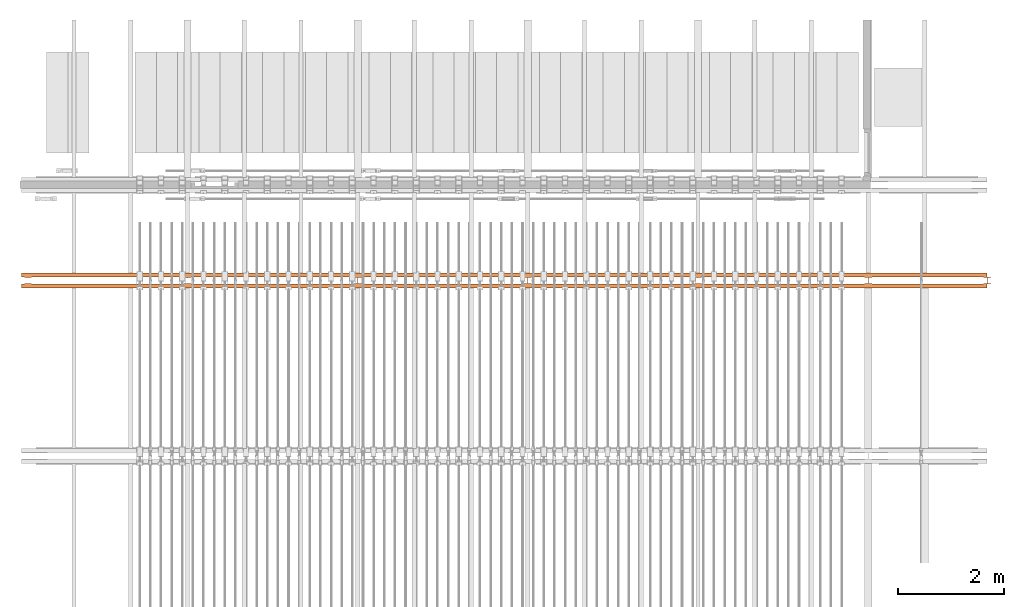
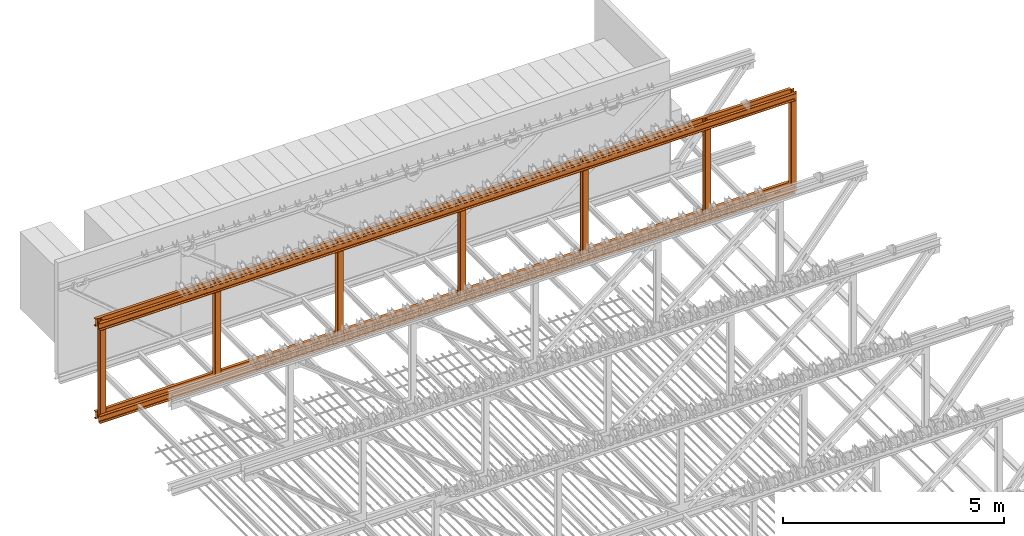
# One storey, part 7 of 8: 1 proxy.
"""IFC2X3 building model written with IfcOpenShell, lengths in millimetres."""

from ifc_helpers import new_model, entity, si_unit, converted_unit, direction, frame, frame_2d, origin, place, context, subcontext, project, spatial, polyline, circle_curve, parameter, trimmed, segment, composite_curve, outline, extrude, source, transform, mapped, material, type_object, type_shapes, element, save


model = new_model("IFC2X3")

# Units and contexts
model_context = context("Model", 3, precision=0.01, world=origin(), true_north=direction((6.123233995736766e-17, 1.0)))
body_context = subcontext(model_context, "Body", "Model", "MODEL_VIEW")
ifc_project = project(units=[si_unit("LENGTHUNIT", "METRE", prefix="MILLI"), si_unit("AREAUNIT", "SQUARE_METRE"), converted_unit("PLANEANGLEUNIT", "DEGREE", entity("IfcPlaneAngleMeasure", 0.017453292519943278), si_unit("PLANEANGLEUNIT", "RADIAN"), dimensions=[0, 0, 0, 0, 0, 0, 0])], contexts=[model_context])

# Site, building, storey
site_placement = place(None, origin())
site = spatial("IfcSite", under=ifc_project, at=site_placement, Name="Default", CompositionType="ELEMENT")
building_placement = place(site_placement, origin())
building = spatial("IfcBuilding", under=site, at=building_placement, CompositionType="ELEMENT")
storey_placement = place(building_placement, frame((0.0, 0.0, 30550.0)))
storey = spatial("IfcBuildingStorey", under=building, at=storey_placement, Name="Rollenzolder", CompositionType="ELEMENT", Elevation=30550.000000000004)

# Proxy
ifc_material = material(Name="Staal PBTA")
building_element_proxy_type = type_object("IfcBuildingElementProxyType", Name="ophanging:ophanging", PredefinedType="NOTDEFINED", material=ifc_material)
shared_shape = source(origin(), body_context, "Body", "SweptSolid", [
    extrude(outline(composite_curve([segment(polyline([(-70.0, -58.0), (-70.0, -66.50000000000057)]), True, "CONTINUOUS"), segment(polyline([(-70.0, -66.50000000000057), (70.0, -66.50000000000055)]), True, "CONTINUOUS"), segment(polyline([(70.0, -66.50000000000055), (70.0, -58.0)]), True, "CONTINUOUS"), segment(polyline([(70.0, -58.0), (14.749999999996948, -58.0)]), True, "CONTINUOUS"), segment(trimmed(circle_curve(frame_2d((14.749999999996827, -46.0), x_axis=(0.0, -1.0)), 12.0), [parameter(269.9999999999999)], [parameter(1.0177774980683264e-12)], True, "PARAMETER"), False, "CONTINUOUS"), segment(polyline([(2.749999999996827, -46.0), (2.749999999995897, 46.0)]), True, "CONTINUOUS"), segment(trimmed(circle_curve(frame_2d((14.749999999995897, 46.0), x_axis=(-1.0, 0.0)), 12.0), [parameter(269.9999999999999)], [parameter(359.9999999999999)], True, "PARAMETER"), False, "CONTINUOUS"), segment(polyline([(14.749999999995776, 58.0), (70.0, 58.0)]), True, "CONTINUOUS"), segment(polyline([(70.0, 58.0), (70.0, 66.4999999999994)]), True, "CONTINUOUS"), segment(polyline([(70.0, 66.4999999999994), (-70.0, 66.49999999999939)]), True, "CONTINUOUS"), segment(polyline([(-70.0, 66.49999999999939), (-70.0, 58.0)]), True, "CONTINUOUS"), segment(polyline([(-70.0, 58.0), (-14.750000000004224, 58.0)]), True, "CONTINUOUS"), segment(trimmed(circle_curve(frame_2d((-14.750000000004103, 46.0), x_axis=(0.0, 1.0)), 12.0), [parameter(269.9999999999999)], [parameter(359.99999999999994)], True, "PARAMETER"), False, "CONTINUOUS"), segment(polyline([(-2.750000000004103, 46.0), (-2.750000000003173, -46.0)]), True, "CONTINUOUS"), segment(trimmed(circle_curve(frame_2d((-14.750000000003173, -46.0), x_axis=(1.0, 0.0)), 12.0), [parameter(269.9999999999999)], [parameter(2.0355549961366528e-13)], True, "PARAMETER"), False, "CONTINUOUS"), segment(polyline([(-14.75000000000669, -58.0), (-70.0, -58.0)]), True, "CONTINUOUS")], self_intersect=False)), frame((18290.0, 0.0, -200.0), z_axis=(0.0, 0.0, -1.0), x_axis=(-1.0, 0.0, 0.0)), (0.0, 0.0, -1.0), 2760.0),
    extrude(outline(composite_curve([segment(polyline([(-70.0, -58.0), (-70.0, -66.50000000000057)]), True, "CONTINUOUS"), segment(polyline([(-70.0, -66.50000000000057), (70.0, -66.50000000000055)]), True, "CONTINUOUS"), segment(polyline([(70.0, -66.50000000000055), (70.0, -58.0)]), True, "CONTINUOUS"), segment(polyline([(70.0, -58.0), (14.749999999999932, -58.0)]), True, "CONTINUOUS"), segment(trimmed(circle_curve(frame_2d((14.749999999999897, -46.0), x_axis=(1.0, 0.0)), 12.0), [parameter(180.00000000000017)], [parameter(270.0000000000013)], True, "PARAMETER"), False, "CONTINUOUS"), segment(polyline([(2.7499999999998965, -46.0), (2.749999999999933, 46.0)]), True, "CONTINUOUS"), segment(trimmed(circle_curve(frame_2d((14.749999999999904, 46.0), x_axis=(1.0, 0.0)), 12.0), [parameter(89.99999999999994)], [parameter(179.9999999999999)], True, "PARAMETER"), False, "CONTINUOUS"), segment(polyline([(14.749999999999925, 58.0), (70.0, 58.0)]), True, "CONTINUOUS"), segment(polyline([(70.0, 58.0), (70.0, 66.4999999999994)]), True, "CONTINUOUS"), segment(polyline([(70.0, 66.4999999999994), (-70.0, 66.49999999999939)]), True, "CONTINUOUS"), segment(polyline([(-70.0, 66.49999999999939), (-70.0, 58.0)]), True, "CONTINUOUS"), segment(polyline([(-70.0, 58.0), (-14.750000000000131, 58.0)]), True, "CONTINUOUS"), segment(trimmed(circle_curve(frame_2d((-14.750000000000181, 46.0), x_axis=(1.0, 0.0)), 12.0), [parameter(359.99999999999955)], [parameter(89.99999999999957)], True, "PARAMETER"), False, "CONTINUOUS"), segment(polyline([(-2.7500000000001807, 46.0), (-2.7500000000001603, -46.0)]), True, "CONTINUOUS"), segment(trimmed(circle_curve(frame_2d((-14.750000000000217, -46.0), x_axis=(1.0, 0.0)), 12.0), [parameter(269.99999999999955)], [parameter(359.99999999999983)], True, "PARAMETER"), False, "CONTINUOUS"), segment(polyline([(-14.750000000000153, -58.0), (-70.0, -58.0)]), True, "CONTINUOUS")], self_intersect=False)), frame((250.0, 0.0, -200.0), z_axis=(0.0, 0.0, -1.0), x_axis=(-1.0, 0.0, 0.0)), (0.0, 0.0, -1.0), 2760.0000000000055),
    extrude(outline(composite_curve([segment(polyline([(-100.0, -41.17690021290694), (100.0, -41.17690021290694)]), True, "CONTINUOUS"), segment(polyline([(100.0, -41.17690021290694), (100.0, 33.82309978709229)]), True, "CONTINUOUS"), segment(polyline([(100.0, 33.82309978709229), (97.03916937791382, 33.82309978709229)]), True, "CONTINUOUS"), segment(trimmed(circle_curve(frame_2d((97.03916937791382, 27.82309978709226), x_axis=(0.0, 1.0)), 6.0), [parameter(3.053332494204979e-13)], [parameter(85.42607874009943)], True, "PARAMETER"), True, "CONTINUOUS"), segment(polyline([(91.05827770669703, 28.30157112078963), (87.02663439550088, -22.093970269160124)]), True, "CONTINUOUS"), segment(trimmed(circle_curve(frame_2d((75.5632586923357, -21.176900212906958), x_axis=(0.0, 1.0)), 11.5), [parameter(180.0000000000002)], [parameter(265.4260787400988)], True, "PARAMETER"), False, "CONTINUOUS"), segment(polyline([(75.5632586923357, -32.67690021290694), (-75.56325869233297, -32.67690021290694)]), True, "CONTINUOUS"), segment(trimmed(circle_curve(frame_2d((-75.56325869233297, -21.176900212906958), x_axis=(0.0, 1.0)), 11.5), [parameter(94.57392125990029)], [parameter(179.99999999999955)], True, "PARAMETER"), False, "CONTINUOUS"), segment(polyline([(-87.0266343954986, -22.093970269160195), (-91.0582777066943, 28.30157112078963)]), True, "CONTINUOUS"), segment(trimmed(circle_curve(frame_2d((-97.03916937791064, 27.82309978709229), x_axis=(0.0, 1.0)), 6.0), [parameter(274.5739212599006)], [parameter(0.0)], True, "PARAMETER"), True, "CONTINUOUS"), segment(polyline([(-97.03916937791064, 33.82309978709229), (-100.0, 33.82309978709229)]), True, "CONTINUOUS"), segment(polyline([(-100.0, 33.82309978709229), (-100.0, -41.17690021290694)]), True, "CONTINUOUS")], self_intersect=False)), frame((125.0, 107.67690021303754, 2460.0), z_axis=(1.0, 0.0, 0.0), x_axis=(0.0, 0.0, -1.0)), (0.0, 0.0, 1.0), 18165.0),
    extrude(outline(composite_curve([segment(polyline([(-100.0, -41.17690021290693), (100.0, -41.17690021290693)]), True, "CONTINUOUS"), segment(polyline([(100.0, -41.17690021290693), (100.0, 33.82309978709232)]), True, "CONTINUOUS"), segment(polyline([(100.0, 33.82309978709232), (97.03916937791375, 33.82309978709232)]), True, "CONTINUOUS"), segment(trimmed(circle_curve(frame_2d((97.03916937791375, 27.82309978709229), x_axis=(0.0, 1.0)), 6.0), [parameter(3.053332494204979e-13)], [parameter(85.42607874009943)], True, "PARAMETER"), True, "CONTINUOUS"), segment(polyline([(91.05827770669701, 28.30157112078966), (87.02663439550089, -22.09397026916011)]), True, "CONTINUOUS"), segment(trimmed(circle_curve(frame_2d((75.56325869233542, -21.17690021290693), x_axis=(0.0, 1.0)), 11.5), [parameter(180.0000000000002)], [parameter(265.4260787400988)], True, "PARAMETER"), False, "CONTINUOUS"), segment(polyline([(75.56325869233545, -32.67690021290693), (-75.5632586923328, -32.67690021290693)]), True, "CONTINUOUS"), segment(trimmed(circle_curve(frame_2d((-75.56325869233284, -21.17690021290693), x_axis=(0.0, 1.0)), 11.5), [parameter(94.57392125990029)], [parameter(179.99999999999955)], True, "PARAMETER"), False, "CONTINUOUS"), segment(polyline([(-87.02663439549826, -22.09397026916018), (-91.0582777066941, 28.30157112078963)]), True, "CONTINUOUS"), segment(trimmed(circle_curve(frame_2d((-97.03916937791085, 27.823099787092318), x_axis=(0.0, 1.0)), 6.0), [parameter(274.5739212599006)], [parameter(0.0)], True, "PARAMETER"), True, "CONTINUOUS"), segment(polyline([(-97.03916937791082, 33.82309978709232), (-100.0, 33.82309978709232)]), True, "CONTINUOUS"), segment(polyline([(-100.0, 33.82309978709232), (-100.0, -41.17690021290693)]), True, "CONTINUOUS")], self_intersect=False)), frame((125.0, 107.67690021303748, -100.0), z_axis=(1.0, 0.0, 0.0), x_axis=(0.0, 0.0, -1.0)), (0.0, 0.0, 1.0), 18165.0),
    extrude(outline(composite_curve([segment(polyline([(-41.17690021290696, -100.0), (33.82309978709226, -100.0)]), True, "CONTINUOUS"), segment(polyline([(33.82309978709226, -100.0), (33.82309978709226, -97.0391693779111)]), True, "CONTINUOUS"), segment(trimmed(circle_curve(frame_2d((27.82309978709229, -97.0391693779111), x_axis=(0.0, 1.0)), 6.0), [parameter(269.9999999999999)], [parameter(355.42607874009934)], True, "PARAMETER"), True, "CONTINUOUS"), segment(polyline([(28.301571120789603, -91.05827770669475), (-22.09397026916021, -87.02663439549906)]), True, "CONTINUOUS"), segment(trimmed(circle_curve(frame_2d((-21.176900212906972, -75.56325869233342), x_axis=(-0.9968152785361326, 0.07974522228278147)), 11.5), [parameter(4.573921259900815)], [parameter(90.00000000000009)], True, "PARAMETER"), False, "CONTINUOUS"), segment(polyline([(-32.67690021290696, -75.56325869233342), (-32.67690021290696, 75.56325869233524)]), True, "CONTINUOUS"), segment(trimmed(circle_curve(frame_2d((-21.176900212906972, 75.56325869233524), x_axis=(0.0, 1.0)), 11.5), [parameter(4.573921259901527)], [parameter(90.00000000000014)], True, "PARAMETER"), False, "CONTINUOUS"), segment(polyline([(-22.09397026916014, 87.02663439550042), (28.30157112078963, 91.05827770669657)]), True, "CONTINUOUS"), segment(trimmed(circle_curve(frame_2d((27.82309978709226, 97.03916937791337), x_axis=(0.9968152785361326, 0.07974522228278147)), 6.0), [parameter(269.9999999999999)], [parameter(355.42607874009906)], True, "PARAMETER"), True, "CONTINUOUS"), segment(polyline([(33.82309978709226, 97.03916937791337), (33.82309978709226, 100.0)]), True, "CONTINUOUS"), segment(polyline([(33.82309978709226, 100.0), (-41.17690021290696, 100.0)]), True, "CONTINUOUS"), segment(polyline([(-41.17690021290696, 100.0), (-41.17690021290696, -100.0)]), True, "CONTINUOUS")], self_intersect=False)), frame((125.0, -107.6769002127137, 2460.0), z_axis=(1.0, 0.0, 0.0), x_axis=(0.0, -1.0, 0.0)), (0.0, 0.0, 1.0), 18165.000000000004),
    extrude(outline(composite_curve([segment(polyline([(-41.17690021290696, -100.0), (33.82309978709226, -100.0)]), True, "CONTINUOUS"), segment(polyline([(33.82309978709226, -100.0), (33.82309978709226, -97.03916937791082)]), True, "CONTINUOUS"), segment(trimmed(circle_curve(frame_2d((27.82309978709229, -97.03916937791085), x_axis=(0.0, 1.0)), 6.0), [parameter(269.9999999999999)], [parameter(355.42607874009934)], True, "PARAMETER"), True, "CONTINUOUS"), segment(polyline([(28.301571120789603, -91.0582777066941), (-22.09397026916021, -87.02663439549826)]), True, "CONTINUOUS"), segment(trimmed(circle_curve(frame_2d((-21.176900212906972, -75.56325869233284), x_axis=(-0.9968152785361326, 0.07974522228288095)), 11.5), [parameter(4.573921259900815)], [parameter(90.00000000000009)], True, "PARAMETER"), False, "CONTINUOUS"), segment(polyline([(-32.67690021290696, -75.5632586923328), (-32.67690021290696, 75.56325869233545)]), True, "CONTINUOUS"), segment(trimmed(circle_curve(frame_2d((-21.176900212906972, 75.56325869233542), x_axis=(0.0, 1.0)), 11.5), [parameter(4.573921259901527)], [parameter(90.00000000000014)], True, "PARAMETER"), False, "CONTINUOUS"), segment(polyline([(-22.09397026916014, 87.02663439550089), (28.30157112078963, 91.05827770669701)]), True, "CONTINUOUS"), segment(trimmed(circle_curve(frame_2d((27.82309978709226, 97.03916937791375), x_axis=(0.9968152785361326, 0.07974522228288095)), 6.0), [parameter(269.9999999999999)], [parameter(355.42607874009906)], True, "PARAMETER"), True, "CONTINUOUS"), segment(polyline([(33.82309978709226, 97.03916937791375), (33.82309978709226, 100.0)]), True, "CONTINUOUS"), segment(polyline([(33.82309978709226, 100.0), (-41.17690021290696, 100.0)]), True, "CONTINUOUS"), segment(polyline([(-41.17690021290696, 100.0), (-41.17690021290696, -100.0)]), True, "CONTINUOUS")], self_intersect=False)), frame((125.0, -107.6769002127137, -100.0), z_axis=(1.0, 0.0, 0.0), x_axis=(0.0, -1.0, 0.0)), (0.0, 0.0, 1.0), 18165.000000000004),
    extrude(outline(composite_curve([segment(polyline([(-70.0, -58.0), (-70.0, -66.50000000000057)]), True, "CONTINUOUS"), segment(polyline([(-70.0, -66.50000000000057), (70.0, -66.50000000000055)]), True, "CONTINUOUS"), segment(polyline([(70.0, -66.50000000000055), (70.0, -58.0)]), True, "CONTINUOUS"), segment(polyline([(70.0, -58.0), (14.750000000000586, -58.0)]), True, "CONTINUOUS"), segment(trimmed(circle_curve(frame_2d((14.750000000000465, -46.0), x_axis=(0.0, -1.0)), 12.0), [parameter(269.9999999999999)], [parameter(1.0177774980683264e-12)], True, "PARAMETER"), False, "CONTINUOUS"), segment(polyline([(2.749999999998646, -46.0), (2.749999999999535, 46.0)]), True, "CONTINUOUS"), segment(trimmed(circle_curve(frame_2d((14.749999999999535, 46.0), x_axis=(-1.0, 0.0)), 12.0), [parameter(269.9999999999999)], [parameter(359.9999999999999)], True, "PARAMETER"), False, "CONTINUOUS"), segment(polyline([(14.749999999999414, 58.0), (70.0, 58.0)]), True, "CONTINUOUS"), segment(polyline([(70.0, 58.0), (70.0, 66.4999999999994)]), True, "CONTINUOUS"), segment(polyline([(70.0, 66.4999999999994), (-70.0, 66.49999999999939)]), True, "CONTINUOUS"), segment(polyline([(-70.0, 66.49999999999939), (-70.0, 58.0)]), True, "CONTINUOUS"), segment(polyline([(-70.0, 58.0), (-14.750000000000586, 58.0)]), True, "CONTINUOUS"), segment(trimmed(circle_curve(frame_2d((-14.750000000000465, 46.0), x_axis=(0.0, 1.0)), 12.0), [parameter(269.9999999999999)], [parameter(359.99999999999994)], True, "PARAMETER"), False, "CONTINUOUS"), segment(polyline([(-2.750000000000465, 46.0), (-2.749999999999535, -46.0)]), True, "CONTINUOUS"), segment(trimmed(circle_curve(frame_2d((-14.749999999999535, -46.0), x_axis=(1.0, 0.0)), 12.0), [parameter(269.9999999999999)], [parameter(2.0355549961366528e-13)], True, "PARAMETER"), False, "CONTINUOUS"), segment(polyline([(-14.750000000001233, -58.0), (-70.0, -58.0)]), True, "CONTINUOUS")], self_intersect=False)), frame((16050.0, 0.0, -200.0), z_axis=(0.0, 0.0, -1.0), x_axis=(-1.0, 0.0, 0.0)), (0.0, 0.0, -1.0), 2760.0),
    extrude(outline(composite_curve([segment(polyline([(-70.0, -58.0), (-70.0, -66.50000000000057)]), True, "CONTINUOUS"), segment(polyline([(-70.0, -66.50000000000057), (70.0, -66.50000000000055)]), True, "CONTINUOUS"), segment(polyline([(70.0, -66.50000000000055), (70.0, -58.0)]), True, "CONTINUOUS"), segment(polyline([(70.0, -58.0), (14.750000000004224, -58.0)]), True, "CONTINUOUS"), segment(trimmed(circle_curve(frame_2d((14.750000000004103, -46.0), x_axis=(0.0, -1.0)), 12.0), [parameter(269.9999999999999)], [parameter(1.0177774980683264e-12)], True, "PARAMETER"), False, "CONTINUOUS"), segment(polyline([(2.750000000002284, -46.0), (2.750000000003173, 46.0)]), True, "CONTINUOUS"), segment(trimmed(circle_curve(frame_2d((14.750000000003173, 46.0), x_axis=(-1.0, 0.0)), 12.0), [parameter(269.9999999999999)], [parameter(359.9999999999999)], True, "PARAMETER"), False, "CONTINUOUS"), segment(polyline([(14.750000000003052, 58.0), (70.0, 58.0)]), True, "CONTINUOUS"), segment(polyline([(70.0, 58.0), (70.0, 66.4999999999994)]), True, "CONTINUOUS"), segment(polyline([(70.0, 66.4999999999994), (-70.0, 66.49999999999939)]), True, "CONTINUOUS"), segment(polyline([(-70.0, 66.49999999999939), (-70.0, 58.0)]), True, "CONTINUOUS"), segment(polyline([(-70.0, 58.0), (-14.749999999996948, 58.0)]), True, "CONTINUOUS"), segment(trimmed(circle_curve(frame_2d((-14.749999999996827, 46.0), x_axis=(0.0, 1.0)), 12.0), [parameter(269.9999999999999)], [parameter(359.99999999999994)], True, "PARAMETER"), False, "CONTINUOUS"), segment(polyline([(-2.749999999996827, 46.0), (-2.749999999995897, -46.0)]), True, "CONTINUOUS"), segment(trimmed(circle_curve(frame_2d((-14.749999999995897, -46.0), x_axis=(1.0, 0.0)), 12.0), [parameter(269.9999999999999)], [parameter(2.0355549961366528e-13)], True, "PARAMETER"), False, "CONTINUOUS"), segment(polyline([(-14.749999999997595, -58.0), (-70.0, -58.0)]), True, "CONTINUOUS")], self_intersect=False)), frame((12850.0, 0.0, -200.0), z_axis=(0.0, 0.0, -1.0), x_axis=(-1.0, 0.0, 0.0)), (0.0, 0.0, -1.0), 2760.0),
    extrude(outline(composite_curve([segment(polyline([(-70.0, -58.0), (-70.0, -66.50000000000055)]), True, "CONTINUOUS"), segment(polyline([(-70.0, -66.50000000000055), (70.0, -66.50000000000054)]), True, "CONTINUOUS"), segment(polyline([(70.0, -66.50000000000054), (70.0, -58.0)]), True, "CONTINUOUS"), segment(polyline([(70.0, -58.0), (14.749999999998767, -58.0)]), True, "CONTINUOUS"), segment(trimmed(circle_curve(frame_2d((14.750000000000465, -46.0), x_axis=(0.0, -1.0)), 12.0), [parameter(269.9999999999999)], [parameter(1.0177774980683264e-12)], True, "PARAMETER"), False, "CONTINUOUS"), segment(polyline([(2.749999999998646, -46.0), (2.749999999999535, 46.0)]), True, "CONTINUOUS"), segment(trimmed(circle_curve(frame_2d((14.749999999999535, 46.0), x_axis=(-1.0, 0.0)), 12.0), [parameter(269.9999999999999)], [parameter(359.9999999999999)], True, "PARAMETER"), False, "CONTINUOUS"), segment(polyline([(14.749999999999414, 58.0), (70.0, 58.0)]), True, "CONTINUOUS"), segment(polyline([(70.0, 58.0), (70.0, 66.4999999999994)]), True, "CONTINUOUS"), segment(polyline([(70.0, 66.4999999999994), (-70.0, 66.49999999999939)]), True, "CONTINUOUS"), segment(polyline([(-70.0, 66.49999999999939), (-70.0, 58.0)]), True, "CONTINUOUS"), segment(polyline([(-70.0, 58.0), (-14.750000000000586, 58.0)]), True, "CONTINUOUS"), segment(trimmed(circle_curve(frame_2d((-14.750000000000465, 46.0), x_axis=(0.0, 1.0)), 12.0), [parameter(269.9999999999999)], [parameter(359.99999999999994)], True, "PARAMETER"), False, "CONTINUOUS"), segment(polyline([(-2.750000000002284, 46.0), (-2.750000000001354, -46.0)]), True, "CONTINUOUS"), segment(trimmed(circle_curve(frame_2d((-14.749999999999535, -46.0), x_axis=(1.0, 0.0)), 12.0), [parameter(269.9999999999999)], [parameter(2.0355549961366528e-13)], True, "PARAMETER"), False, "CONTINUOUS"), segment(polyline([(-14.750000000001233, -58.0), (-70.0, -58.0)]), True, "CONTINUOUS")], self_intersect=False)), frame((9650.0, 0.0, -200.0), z_axis=(0.0, 0.0, -1.0), x_axis=(-1.0, 0.0, 0.0)), (0.0, 0.0, -1.0), 2759.9999999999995),
    extrude(outline(composite_curve([segment(polyline([(-70.0, -58.0), (-70.0, -66.50000000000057)]), True, "CONTINUOUS"), segment(polyline([(-70.0, -66.50000000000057), (70.0, -66.50000000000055)]), True, "CONTINUOUS"), segment(polyline([(70.0, -66.50000000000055), (70.0, -58.0)]), True, "CONTINUOUS"), segment(polyline([(70.0, -58.0), (14.750000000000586, -58.0)]), True, "CONTINUOUS"), segment(trimmed(circle_curve(frame_2d((14.750000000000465, -46.0), x_axis=(0.0, -1.0)), 12.0), [parameter(269.9999999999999)], [parameter(1.0177774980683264e-12)], True, "PARAMETER"), False, "CONTINUOUS"), segment(polyline([(2.7500000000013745, -46.0), (2.750000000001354, 46.0)]), True, "CONTINUOUS"), segment(trimmed(circle_curve(frame_2d((14.749999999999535, 46.0), x_axis=(-1.0, 0.0)), 12.0), [parameter(269.9999999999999)], [parameter(359.9999999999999)], True, "PARAMETER"), False, "CONTINUOUS"), segment(polyline([(14.750000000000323, 58.0), (70.0, 58.0)]), True, "CONTINUOUS"), segment(polyline([(70.0, 58.0), (70.0, 66.49999999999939)]), True, "CONTINUOUS"), segment(polyline([(70.0, 66.49999999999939), (-70.0, 66.49999999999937)]), True, "CONTINUOUS"), segment(polyline([(-70.0, 66.49999999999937), (-70.0, 58.0)]), True, "CONTINUOUS"), segment(polyline([(-70.0, 58.0), (-14.749999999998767, 58.0)]), True, "CONTINUOUS"), segment(trimmed(circle_curve(frame_2d((-14.750000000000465, 46.0), x_axis=(0.0, 1.0)), 12.0), [parameter(269.9999999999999)], [parameter(359.99999999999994)], True, "PARAMETER"), False, "CONTINUOUS"), segment(polyline([(-2.7499999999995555, 46.0), (-2.749999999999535, -46.0)]), True, "CONTINUOUS"), segment(trimmed(circle_curve(frame_2d((-14.749999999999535, -46.0), x_axis=(1.0, 0.0)), 12.0), [parameter(269.9999999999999)], [parameter(2.0355549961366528e-13)], True, "PARAMETER"), False, "CONTINUOUS"), segment(polyline([(-14.749999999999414, -58.0), (-70.0, -58.0)]), True, "CONTINUOUS")], self_intersect=False)), frame((6450.0, 0.0, -200.0), z_axis=(0.0, 0.0, -1.0), x_axis=(-1.0, 0.0, 0.0)), (0.0, 0.0, -1.0), 2760.0),
    extrude(outline(composite_curve([segment(polyline([(-70.0, -58.0), (-70.0, -66.50000000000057)]), True, "CONTINUOUS"), segment(polyline([(-70.0, -66.50000000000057), (70.0, -66.50000000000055)]), True, "CONTINUOUS"), segment(polyline([(70.0, -66.50000000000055), (70.0, -58.0)]), True, "CONTINUOUS"), segment(polyline([(70.0, -58.0), (14.749999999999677, -58.0)]), True, "CONTINUOUS"), segment(trimmed(circle_curve(frame_2d((14.750000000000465, -46.0), x_axis=(1.0, 0.0)), 12.0), [parameter(180.00000000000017)], [parameter(270.0000000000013)], True, "PARAMETER"), False, "CONTINUOUS"), segment(polyline([(2.75000000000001, -46.0), (2.74999999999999, 46.0)]), True, "CONTINUOUS"), segment(trimmed(circle_curve(frame_2d((14.750000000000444, 46.0), x_axis=(1.0, 0.0)), 12.0), [parameter(89.99999999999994)], [parameter(179.9999999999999)], True, "PARAMETER"), False, "CONTINUOUS"), segment(polyline([(14.749999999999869, 58.0), (70.0, 58.0)]), True, "CONTINUOUS"), segment(polyline([(70.0, 58.0), (70.0, 66.4999999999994)]), True, "CONTINUOUS"), segment(polyline([(70.0, 66.4999999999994), (-70.0, 66.49999999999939)]), True, "CONTINUOUS"), segment(polyline([(-70.0, 66.49999999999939), (-70.0, 58.0)]), True, "CONTINUOUS"), segment(polyline([(-70.0, 58.0), (-14.750000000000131, 58.0)]), True, "CONTINUOUS"), segment(trimmed(circle_curve(frame_2d((-14.75000000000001, 46.0), x_axis=(1.0, 0.0)), 12.0), [parameter(359.99999999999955)], [parameter(89.99999999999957)], True, "PARAMETER"), False, "CONTINUOUS"), segment(polyline([(-2.75000000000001, 46.0), (-2.74999999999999, -46.0)]), True, "CONTINUOUS"), segment(trimmed(circle_curve(frame_2d((-14.74999999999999, -46.0), x_axis=(1.0, 0.0)), 12.0), [parameter(269.99999999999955)], [parameter(359.99999999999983)], True, "PARAMETER"), False, "CONTINUOUS"), segment(polyline([(-14.749999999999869, -58.0), (-70.0, -58.0)]), True, "CONTINUOUS")], self_intersect=False)), frame((3250.0, 0.0, -200.0), z_axis=(0.0, 0.0, -1.0), x_axis=(-1.0, 0.0, 0.0)), (0.0, 0.0, -1.0), 2760.0000000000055),
])
type_shapes(building_element_proxy_type, [shared_shape])
proxy_placement = place(storey_placement, frame((6486.744931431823, 34431.16790690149, -30.0)))
element("IfcBuildingElementProxy", 1, at=proxy_placement, inside=storey, type_object=building_element_proxy_type, material=ifc_material, Name="ophanging:ophanging", ObjectType="ophanging:ophanging", context=body_context, shape_type="MappedRepresentation", body=[
    mapped(shared_shape, transform((0.0, 0.0, 0.0), scale=1.0)),
])

save(model, "model.ifc")
